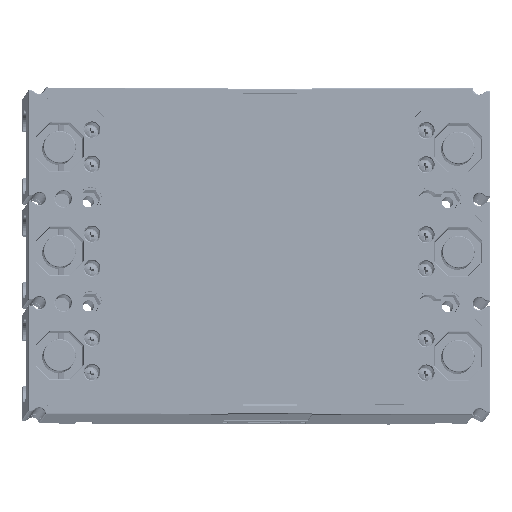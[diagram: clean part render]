
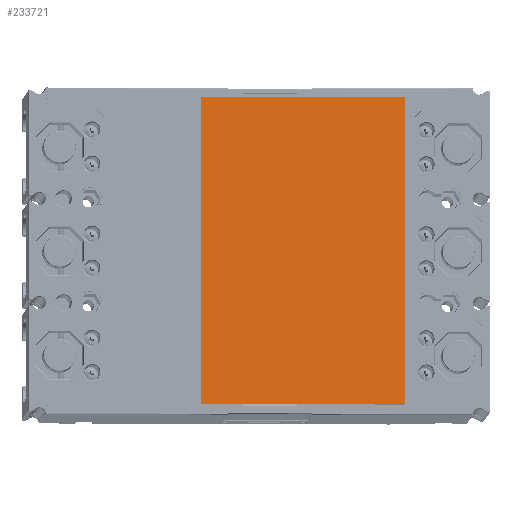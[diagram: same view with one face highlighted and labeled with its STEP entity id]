
A CAD part, front view. The second image highlights one B-rep face of the part: STEP entity #233721.
In plain terms, the highlighted planar face has unit normal (0.037, -0.998, 0.053) as drawn and (0, -1, 0) by its records, which use the part's own axes.
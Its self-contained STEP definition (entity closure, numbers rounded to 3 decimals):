
#233562=CARTESIAN_POINT('',(-85.1,-0.5,-56.25));
#233563=DIRECTION('',(0.,1.,0.));
#233564=DIRECTION('',(0.,0.,-1.));
#233565=AXIS2_PLACEMENT_3D('',#233562,#233563,#233564);
#233567=CARTESIAN_POINT('',(-85.1,-0.5,56.25));
#233568=DIRECTION('',(0.,1.,0.));
#233569=DIRECTION('',(-1.,0.,0.));
#233570=AXIS2_PLACEMENT_3D('',#233567,#233568,#233569);
#233572=CARTESIAN_POINT('',(85.1,-0.5,56.25));
#233573=DIRECTION('',(0.,1.,0.));
#233574=DIRECTION('',(0.,0.,1.));
#233575=AXIS2_PLACEMENT_3D('',#233572,#233573,#233574);
#233577=CARTESIAN_POINT('',(85.1,-0.5,-56.25));
#233578=DIRECTION('',(0.,1.,0.));
#233579=DIRECTION('',(1.,0.,0.));
#233580=AXIS2_PLACEMENT_3D('',#233577,#233578,#233579);
#233590=DIRECTION('',(1.,0.,0.));
#233591=VECTOR('',#233590,170.2);
#233592=CARTESIAN_POINT('',(-85.1,-0.5,-56.75));
#233593=LINE('',#233592,#233591);
#233602=DIRECTION('',(0.,0.,1.));
#233603=VECTOR('',#233602,112.5);
#233604=CARTESIAN_POINT('',(85.6,-0.5,-56.25));
#233605=LINE('',#233604,#233603);
#233614=DIRECTION('',(-1.,0.,0.));
#233615=VECTOR('',#233614,170.2);
#233616=CARTESIAN_POINT('',(85.1,-0.5,56.75));
#233617=LINE('',#233616,#233615);
#233626=DIRECTION('',(0.,0.,-1.));
#233627=VECTOR('',#233626,112.5);
#233628=CARTESIAN_POINT('',(-85.6,-0.5,56.25));
#233629=LINE('',#233628,#233627);
#233666=CARTESIAN_POINT('',(-85.1,-0.5,-56.75));
#233667=CARTESIAN_POINT('',(-85.6,-0.5,-56.25));
#233668=VERTEX_POINT('',#233666);
#233669=VERTEX_POINT('',#233667);
#233670=CARTESIAN_POINT('',(-85.6,-0.5,56.25));
#233671=VERTEX_POINT('',#233670);
#233672=CARTESIAN_POINT('',(-85.1,-0.5,56.75));
#233673=VERTEX_POINT('',#233672);
#233674=CARTESIAN_POINT('',(85.1,-0.5,56.75));
#233675=VERTEX_POINT('',#233674);
#233676=CARTESIAN_POINT('',(85.6,-0.5,56.25));
#233677=VERTEX_POINT('',#233676);
#233678=CARTESIAN_POINT('',(85.6,-0.5,-56.25));
#233679=VERTEX_POINT('',#233678);
#233680=CARTESIAN_POINT('',(85.1,-0.5,-56.75));
#233681=VERTEX_POINT('',#233680);
#233698=CARTESIAN_POINT('',(0.,-0.5,0.));
#233699=DIRECTION('',(0.,1.,0.));
#233700=DIRECTION('',(1.,0.,0.));
#233701=AXIS2_PLACEMENT_3D('',#233698,#233699,#233700);
#233702=PLANE('',#233701);
#233704=ORIENTED_EDGE('',*,*,#233703,.T.);
#233706=ORIENTED_EDGE('',*,*,#233705,.F.);
#233708=ORIENTED_EDGE('',*,*,#233707,.T.);
#233710=ORIENTED_EDGE('',*,*,#233709,.F.);
#233712=ORIENTED_EDGE('',*,*,#233711,.T.);
#233714=ORIENTED_EDGE('',*,*,#233713,.F.);
#233716=ORIENTED_EDGE('',*,*,#233715,.T.);
#233718=ORIENTED_EDGE('',*,*,#233717,.F.);
#233719=EDGE_LOOP('',(#233704,#233706,#233708,#233710,#233712,#233714,#233716,
#233718));
#233720=FACE_OUTER_BOUND('',#233719,.F.);
#233721=ADVANCED_FACE('',(#233720),#233702,.F.);
#233566=CIRCLE('',#233565,0.5);
#233571=CIRCLE('',#233570,0.5);
#233576=CIRCLE('',#233575,0.5);
#233581=CIRCLE('',#233580,0.5);
#233703=EDGE_CURVE('',#233668,#233669,#233566,.T.);
#233705=EDGE_CURVE('',#233671,#233669,#233629,.T.);
#233707=EDGE_CURVE('',#233671,#233673,#233571,.T.);
#233709=EDGE_CURVE('',#233675,#233673,#233617,.T.);
#233711=EDGE_CURVE('',#233675,#233677,#233576,.T.);
#233713=EDGE_CURVE('',#233679,#233677,#233605,.T.);
#233715=EDGE_CURVE('',#233679,#233681,#233581,.T.);
#233717=EDGE_CURVE('',#233668,#233681,#233593,.T.);
